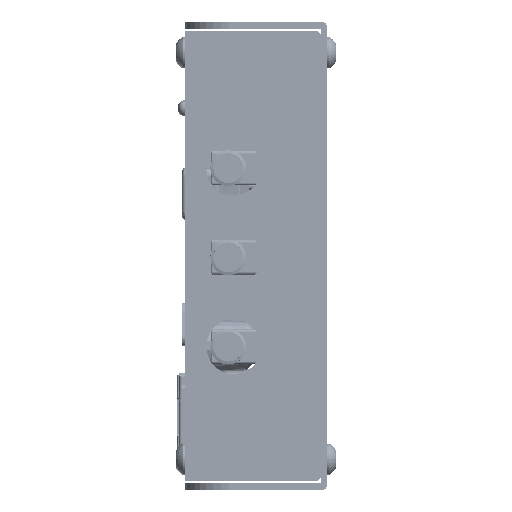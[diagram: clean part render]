
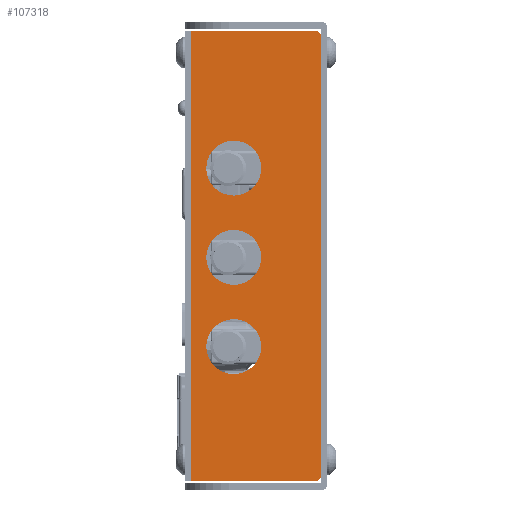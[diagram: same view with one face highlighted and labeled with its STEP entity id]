
A CAD part, left-side view. The second image highlights one B-rep face of the part: STEP entity #107318.
In plain terms, the highlighted planar face has unit normal (-1, 0, 0) as drawn and (0, 0, 1) by its records, which use the part's own axes.
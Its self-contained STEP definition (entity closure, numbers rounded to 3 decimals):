
#8938 = EDGE_CURVE ( 'NONE', #99916, #99918, #76192, .T. ) ;
#8946 = EDGE_CURVE ( 'NONE', #99923, #99925, #76212, .T. ) ;
#8954 = EDGE_CURVE ( 'NONE', #99931, #99933, #76232, .T. ) ;
#42515 = AXIS2_PLACEMENT_3D ( 'NONE', #49827, #49818, #49838 ) ;
#49818 = DIRECTION ( 'NONE',  ( 0., 0., -1. ) ) ;
#49825 = FACE_BOUND ( 'NONE', #137913, .T. ) ;
#49827 = CARTESIAN_POINT ( 'NONE',  ( -41., -11.8, 1.2 ) ) ;
#49829 = FACE_BOUND ( 'NONE', #138757, .T. ) ;
#49833 = FACE_BOUND ( 'NONE', #138756, .T. ) ;
#49836 = FACE_OUTER_BOUND ( 'NONE', #138758, .T. ) ;
#49837 = PLANE ( 'NONE',  #42515 ) ;
#49838 = DIRECTION ( 'NONE',  ( -1., 0., 0. ) ) ;
#76192 = CIRCLE ( 'NONE', #76199, 5. ) ;
#76199 = AXIS2_PLACEMENT_3D ( 'NONE', #80637, #80639, #80640 ) ;
#76212 = CIRCLE ( 'NONE', #76219, 5. ) ;
#76219 = AXIS2_PLACEMENT_3D ( 'NONE', #80659, #80660, #80662 ) ;
#76232 = CIRCLE ( 'NONE', #76239, 5. ) ;
#76239 = AXIS2_PLACEMENT_3D ( 'NONE', #80684, #80686, #80687 ) ;
#80637 = CARTESIAN_POINT ( 'NONE',  ( 16., 4.05, 1.2 ) ) ;
#80639 = DIRECTION ( 'NONE',  ( 0., 0., 1. ) ) ;
#80640 = DIRECTION ( 'NONE',  ( 1., 0., 0. ) ) ;
#80659 = CARTESIAN_POINT ( 'NONE',  ( -0.25, 4.05, 1.2 ) ) ;
#80660 = DIRECTION ( 'NONE',  ( 0., 0., 1. ) ) ;
#80662 = DIRECTION ( 'NONE',  ( 1., 0., 0. ) ) ;
#80684 = CARTESIAN_POINT ( 'NONE',  ( -16.5, 4.05, 1.2 ) ) ;
#80686 = DIRECTION ( 'NONE',  ( 0., 0., 1. ) ) ;
#80687 = DIRECTION ( 'NONE',  ( 1., 0., 0. ) ) ;
#99881 = VERTEX_POINT ( 'NONE', #137862 ) ;
#99916 = VERTEX_POINT ( 'NONE', #137900 ) ;
#99918 = VERTEX_POINT ( 'NONE', #137902 ) ;
#99923 = VERTEX_POINT ( 'NONE', #137908 ) ;
#99925 = VERTEX_POINT ( 'NONE', #137910 ) ;
#99931 = VERTEX_POINT ( 'NONE', #137916 ) ;
#99933 = VERTEX_POINT ( 'NONE', #137918 ) ;
#99934 = VERTEX_POINT ( 'NONE', #137920 ) ;
#99942 = VERTEX_POINT ( 'NONE', #137928 ) ;
#99943 = VERTEX_POINT ( 'NONE', #137930 ) ;
#99947 = VERTEX_POINT ( 'NONE', #137934 ) ;
#99960 = VERTEX_POINT ( 'NONE', #137948 ) ;
#107318 = ADVANCED_FACE ( 'NONE', ( #49825, #49829, #49833, #49836 ), #49837, .F. ) ;
#121428 = VECTOR ( 'NONE', #152652, 1000. ) ;
#121430 = VECTOR ( 'NONE', #152677, 1000. ) ;
#121444 = VECTOR ( 'NONE', #152768, 1000. ) ;
#121465 = VECTOR ( 'NONE', #152896, 1000. ) ;
#121466 = CIRCLE ( 'NONE', #121468, 5. ) ;
#121467 = CIRCLE ( 'NONE', #121470, 5. ) ;
#121468 = AXIS2_PLACEMENT_3D ( 'NONE', #152902, #152904, #152906 ) ;
#121469 = CIRCLE ( 'NONE', #121472, 5. ) ;
#121470 = AXIS2_PLACEMENT_3D ( 'NONE', #152910, #152912, #152914 ) ;
#121471 = CIRCLE ( 'NONE', #121474, 1. ) ;
#121472 = AXIS2_PLACEMENT_3D ( 'NONE', #152918, #152920, #152922 ) ;
#121473 = CIRCLE ( 'NONE', #121476, 1. ) ;
#121474 = AXIS2_PLACEMENT_3D ( 'NONE', #152926, #152928, #152930 ) ;
#121476 = AXIS2_PLACEMENT_3D ( 'NONE', #152934, #152936, #152938 ) ;
#137862 = CARTESIAN_POINT ( 'NONE',  ( 41., 11.8, 1.2 ) ) ;
#137900 = CARTESIAN_POINT ( 'NONE',  ( 11., 4.05, 1.2 ) ) ;
#137902 = CARTESIAN_POINT ( 'NONE',  ( 21., 4.05, 1.2 ) ) ;
#137908 = CARTESIAN_POINT ( 'NONE',  ( -5.25, 4.05, 1.2 ) ) ;
#137910 = CARTESIAN_POINT ( 'NONE',  ( 4.75, 4.05, 1.2 ) ) ;
#137913 = EDGE_LOOP ( 'NONE', ( #140465, #140466 ) ) ;
#137916 = CARTESIAN_POINT ( 'NONE',  ( -21.5, 4.05, 1.2 ) ) ;
#137918 = CARTESIAN_POINT ( 'NONE',  ( -11.5, 4.05, 1.2 ) ) ;
#137920 = CARTESIAN_POINT ( 'NONE',  ( -41., 11.8, 1.2 ) ) ;
#137928 = CARTESIAN_POINT ( 'NONE',  ( -41., -10.8, 1.2 ) ) ;
#137930 = CARTESIAN_POINT ( 'NONE',  ( -40., -11.8, 1.2 ) ) ;
#137934 = CARTESIAN_POINT ( 'NONE',  ( 40., -11.8, 1.2 ) ) ;
#137948 = CARTESIAN_POINT ( 'NONE',  ( 41., -10.8, 1.2 ) ) ;
#138756 = EDGE_LOOP ( 'NONE', ( #140469, #140470 ) ) ;
#138757 = EDGE_LOOP ( 'NONE', ( #140467, #140468 ) ) ;
#138758 = EDGE_LOOP ( 'NONE', ( #140471, #140472, #140473, #140474, #140475, #140476 ) ) ;
#140465 = ORIENTED_EDGE ( 'NONE', *, *, #147579, .F. ) ;
#140466 = ORIENTED_EDGE ( 'NONE', *, *, #8938, .F. ) ;
#140467 = ORIENTED_EDGE ( 'NONE', *, *, #147581, .F. ) ;
#140468 = ORIENTED_EDGE ( 'NONE', *, *, #8946, .F. ) ;
#140469 = ORIENTED_EDGE ( 'NONE', *, *, #147583, .F. ) ;
#140470 = ORIENTED_EDGE ( 'NONE', *, *, #8954, .F. ) ;
#140471 = ORIENTED_EDGE ( 'NONE', *, *, #147495, .T. ) ;
#140472 = ORIENTED_EDGE ( 'NONE', *, *, #147586, .T. ) ;
#140473 = ORIENTED_EDGE ( 'NONE', *, *, #147504, .T. ) ;
#140474 = ORIENTED_EDGE ( 'NONE', *, *, #147588, .T. ) ;
#140475 = ORIENTED_EDGE ( 'NONE', *, *, #147534, .T. ) ;
#140476 = ORIENTED_EDGE ( 'NONE', *, *, #147576, .T. ) ;
#147495 = EDGE_CURVE ( 'NONE', #99934, #99942, #152648, .T. ) ;
#147504 = EDGE_CURVE ( 'NONE', #99943, #99947, #152672, .T. ) ;
#147534 = EDGE_CURVE ( 'NONE', #99960, #99881, #152746, .T. ) ;
#147576 = EDGE_CURVE ( 'NONE', #99881, #99934, #152891, .T. ) ;
#147579 = EDGE_CURVE ( 'NONE', #99918, #99916, #121466, .T. ) ;
#147581 = EDGE_CURVE ( 'NONE', #99925, #99923, #121467, .T. ) ;
#147583 = EDGE_CURVE ( 'NONE', #99933, #99931, #121469, .T. ) ;
#147586 = EDGE_CURVE ( 'NONE', #99942, #99943, #121471, .T. ) ;
#147588 = EDGE_CURVE ( 'NONE', #99947, #99960, #121473, .T. ) ;
#152648 = LINE ( 'NONE', #152650, #121428 ) ;
#152650 = CARTESIAN_POINT ( 'NONE',  ( -41., 11.8, 1.2 ) ) ;
#152652 = DIRECTION ( 'NONE',  ( 0., -1., 0. ) ) ;
#152672 = LINE ( 'NONE', #152675, #121430 ) ;
#152675 = CARTESIAN_POINT ( 'NONE',  ( 41., -11.8, 1.2 ) ) ;
#152677 = DIRECTION ( 'NONE',  ( 1., 0., 0. ) ) ;
#152746 = LINE ( 'NONE', #152764, #121444 ) ;
#152764 = CARTESIAN_POINT ( 'NONE',  ( 41., 11.8, 1.2 ) ) ;
#152768 = DIRECTION ( 'NONE',  ( 0., 1., 0. ) ) ;
#152891 = LINE ( 'NONE', #152894, #121465 ) ;
#152894 = CARTESIAN_POINT ( 'NONE',  ( 41., 11.8, 1.2 ) ) ;
#152896 = DIRECTION ( 'NONE',  ( -1., 0., 0. ) ) ;
#152902 = CARTESIAN_POINT ( 'NONE',  ( 16., 4.05, 1.2 ) ) ;
#152904 = DIRECTION ( 'NONE',  ( 0., 0., 1. ) ) ;
#152906 = DIRECTION ( 'NONE',  ( 1., 0., 0. ) ) ;
#152910 = CARTESIAN_POINT ( 'NONE',  ( -0.25, 4.05, 1.2 ) ) ;
#152912 = DIRECTION ( 'NONE',  ( 0., 0., 1. ) ) ;
#152914 = DIRECTION ( 'NONE',  ( 1., 0., 0. ) ) ;
#152918 = CARTESIAN_POINT ( 'NONE',  ( -16.5, 4.05, 1.2 ) ) ;
#152920 = DIRECTION ( 'NONE',  ( 0., 0., 1. ) ) ;
#152922 = DIRECTION ( 'NONE',  ( 1., 0., 0. ) ) ;
#152926 = CARTESIAN_POINT ( 'NONE',  ( -40., -10.8, 1.2 ) ) ;
#152928 = DIRECTION ( 'NONE',  ( 0., 0., 1. ) ) ;
#152930 = DIRECTION ( 'NONE',  ( -1., 0., 0. ) ) ;
#152934 = CARTESIAN_POINT ( 'NONE',  ( 40., -10.8, 1.2 ) ) ;
#152936 = DIRECTION ( 'NONE',  ( 0., 0., 1. ) ) ;
#152938 = DIRECTION ( 'NONE',  ( -1., 0., 0. ) ) ;
